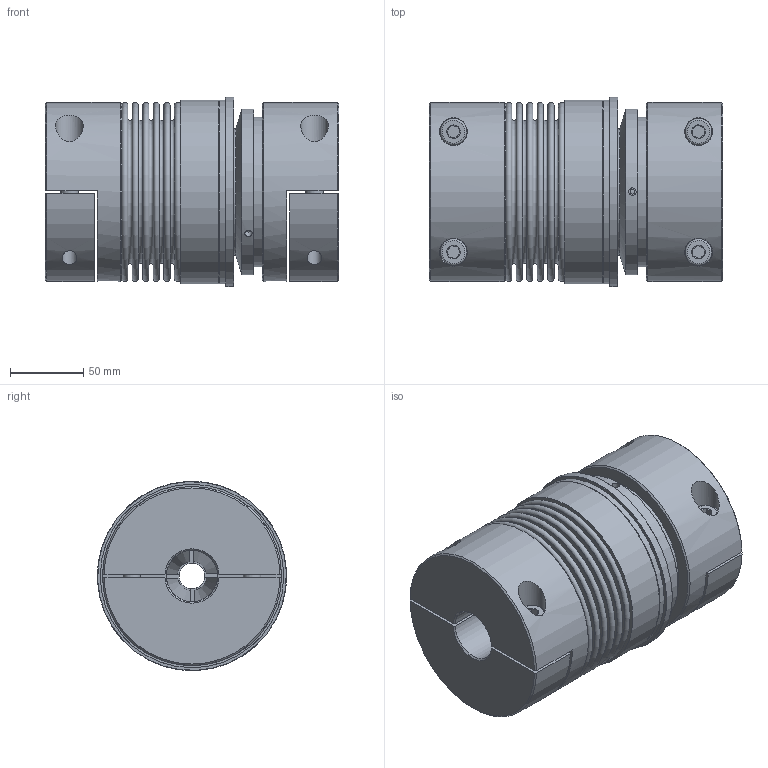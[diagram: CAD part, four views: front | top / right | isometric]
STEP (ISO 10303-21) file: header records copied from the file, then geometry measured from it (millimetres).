
FILE_DESCRIPTION( ( 'KBE1/14 - N7H8 - N14H7 - 98 Sh' ), '1' );
FILE_NAME( 'K:/Konstruktion/Fertigungszeichnungen/Überlastkupplung/KBK-B/KBK-BHH/500/KBK-B-H-500-201.stp', '14.12.2015', ( 'KBK-Antriebstechnik' ), ( 'KBK-Antriebstechnik' ), 'PSStep 16.0.42', 'Solid Edge St6', ' ' );
FILE_SCHEMA( ( 'AUTOMOTIVE_DESIGN { 1 0 10303 214 1 1 1 1 }' ) );
Length unit declared in the file: millimetre
Products named in the file (22): KB4H8-500-oa4; KN4H-500-oa2; Spreiznabe KB8-500-oa3; 61913; 61913_PART1; 61913_PART2; 61913_PART3; a_65; Stellring 500; Druckring 500; KBK L-P-500 Grundkörper-oa1; KBK L-P-500 Grundkörper-oa0; Assem1; ISO EN DIN 4762 M12x40; Flansch BK500; BL500_Standard_2; KN4H-500 (2)-oa5
Assembly tree (42 placements, depth 3):
  Assem1
    ISO EN DIN 4762 M12x40  x4
    Flansch BK500
    BL500_Standard_2
    KN4H-500 (2)-oa5
    KN4H-500 (2)-oa5
    KBK L-P-500 Grundkörper-oa1
      KBK L-P-500 Grundkörper-oa0
    Stellring 500
      Stellring 500
    Druckring 500
      Druckring 500
    a_65
      a_65
    KB4H8-500-oa4
      KN4H-500-oa2
      KN4H-500-oa2
      Spreiznabe KB8-500-oa3
    61913
      61913_PART1
      61913_PART2
      61913_PART3  x19
Bounding box: 199.9 x 128.86 x 128.86 mm (x, y, z)
Volume: 1652710.6 mm3; surface area: 437378.5 mm2
Topology: 36 solids, 36 shells, 361 faces, 741 edges, 469 vertices
Faces by surface type: plane 152, cylinder 91, cone 56, torus 43, sphere 19
Full cylindrical faces by diameter (mm): 3 x2, 3.242 x3, 5.1 x3, 5.2 x3, 10.106 x4, 11 x4, 12 x8, 12.5 x4, 17.5 x1, 18 x4, 19 x4, 35 x2, 42 x1, 50 x1, 60 x1, 62 x1, 65 x3, 73.2 x2, 80 x1, 81.8 x2, 86 x2, 90 x2, 97.5 x2, 102 x1, 104.5 x1, 107.7 x2, 108.9 x2, 113 x1, 114 x1, 122 x2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
Entity records: 9522 total; most frequent: CARTESIAN_POINT 2212, DIRECTION 1256, ORIENTED_EDGE 818, AXIS2_PLACEMENT_3D 574, EDGE_LOOP 472, EDGE_CURVE 409, FACE_OUTER_BOUND 365, VERTEX_POINT 344
